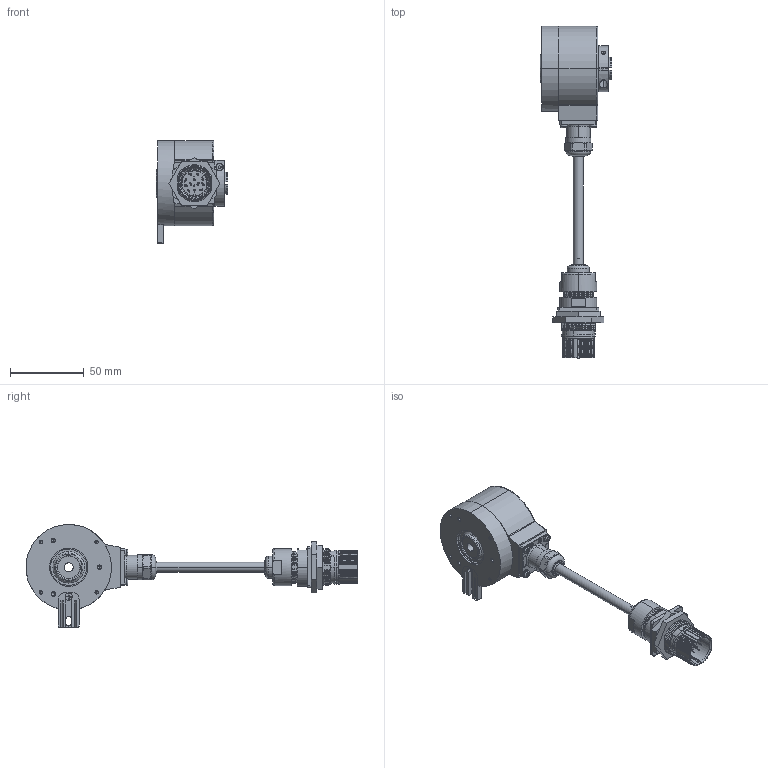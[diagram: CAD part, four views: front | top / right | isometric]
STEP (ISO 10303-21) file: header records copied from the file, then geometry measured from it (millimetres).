
FILE_DESCRIPTION (( 'STEP AP203' ), '1' );
FILE_NAME ('K58I.OXX.XXXXX.XC21506.6XR14.XXXX.step', '2025-12-08T11:57:53', ( '' ), ( '' ), 'SwSTEP 2.0', 'SolidWorks 2021', '' );
FILE_SCHEMA (( 'CONFIG_CONTROL_DESIGN' ));
Length unit declared in the file: millimetre
Products named in the file (1): K58I.OXX.XXXXX.XC21506.6XR14.XXXX
Bounding box: 48.5 x 225.35 x 69.9 mm (x, y, z)
Volume: 140433.7 mm3; surface area: 62530.1 mm2
Topology: 34 solids, 34 shells, 1968 faces, 5030 edges, 3216 vertices
Faces by surface type: cylinder 726, plane 604, cone 399, bspline 124, torus 73, sphere 42
Entity records: 67052 total; most frequent: CARTESIAN_POINT 20359, ORIENTED_EDGE 9984, DIRECTION 9537, EDGE_CURVE 4992, AXIS2_PLACEMENT_3D 3736, VERTEX_POINT 3216, EDGE_LOOP 2152, LINE 2065
